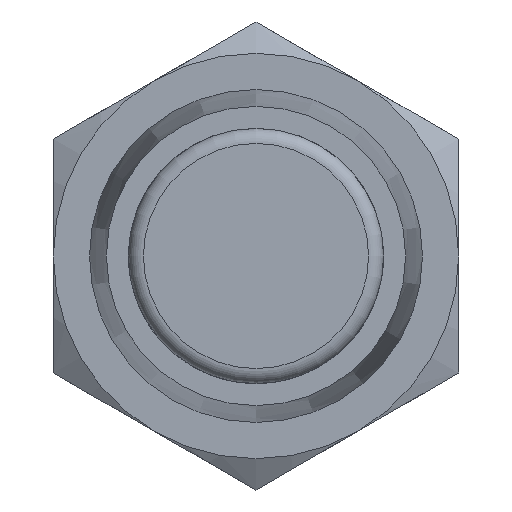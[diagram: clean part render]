
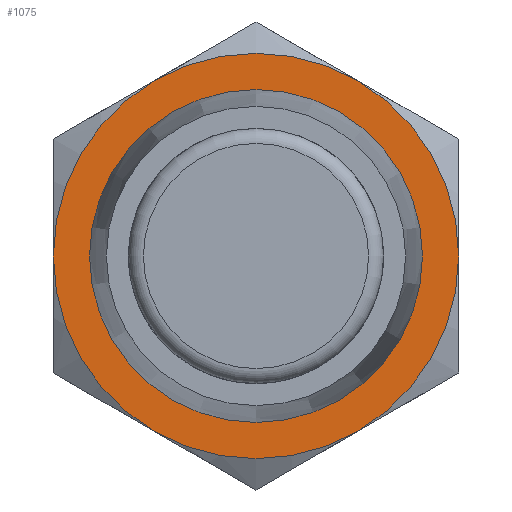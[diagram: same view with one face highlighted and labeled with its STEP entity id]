
A CAD part, left-side view. The second image highlights one B-rep face of the part: STEP entity #1075.
In plain terms, the highlighted planar face has unit normal (-1, 0, 0).
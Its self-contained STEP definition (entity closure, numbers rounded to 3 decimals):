
#994=CIRCLE('',#2697,13.5);
#995=CIRCLE('',#2701,13.5);
#996=CIRCLE('',#2705,13.5);
#997=CIRCLE('',#2709,13.5);
#998=CIRCLE('',#2713,13.5);
#999=CIRCLE('',#2719,13.5);
#1000=CIRCLE('',#2720,13.5);
#1001=CIRCLE('',#2722,11.092);
#1075=ADVANCED_FACE('',(#1217,#1218),#1167,.T.);
#1167=PLANE('',#2723);
#1217=FACE_BOUND('',#1296,.T.);
#1218=FACE_BOUND('',#1297,.T.);
#1296=EDGE_LOOP('',(#1604));
#1297=EDGE_LOOP('',(#1605,#1606,#1607,#1608,#1609,#1610,#1611));
#1604=ORIENTED_EDGE('',*,*,#2211,.T.);
#1605=ORIENTED_EDGE('',*,*,#2209,.T.);
#1606=ORIENTED_EDGE('',*,*,#2175,.T.);
#1607=ORIENTED_EDGE('',*,*,#2183,.T.);
#1608=ORIENTED_EDGE('',*,*,#2190,.T.);
#1609=ORIENTED_EDGE('',*,*,#2195,.T.);
#1610=ORIENTED_EDGE('',*,*,#2202,.T.);
#1611=ORIENTED_EDGE('',*,*,#2210,.T.);
#1970=VERTEX_POINT('',#3541);
#1972=VERTEX_POINT('',#3544);
#1976=VERTEX_POINT('',#3569);
#1979=VERTEX_POINT('',#3591);
#1982=VERTEX_POINT('',#3609);
#1985=VERTEX_POINT('',#3631);
#1988=VERTEX_POINT('',#3657);
#1989=VERTEX_POINT('',#3661);
#2175=EDGE_CURVE('',#1972,#1970,#994,.T.);
#2183=EDGE_CURVE('',#1970,#1976,#995,.T.);
#2190=EDGE_CURVE('',#1976,#1979,#996,.T.);
#2195=EDGE_CURVE('',#1979,#1982,#997,.T.);
#2202=EDGE_CURVE('',#1982,#1985,#998,.T.);
#2209=EDGE_CURVE('',#1988,#1972,#999,.T.);
#2210=EDGE_CURVE('',#1985,#1988,#1000,.T.);
#2211=EDGE_CURVE('',#1989,#1989,#1001,.T.);
#2697=AXIS2_PLACEMENT_3D('',#3543,#2981,#2982);
#2701=AXIS2_PLACEMENT_3D('',#3568,#2991,#2992);
#2705=AXIS2_PLACEMENT_3D('',#3592,#3000,#3001);
#2709=AXIS2_PLACEMENT_3D('',#3608,#3009,#3010);
#2713=AXIS2_PLACEMENT_3D('',#3632,#3018,#3019);
#2719=AXIS2_PLACEMENT_3D('',#3656,#3031,#3032);
#2720=AXIS2_PLACEMENT_3D('',#3658,#3033,#3034);
#2722=AXIS2_PLACEMENT_3D('',#3660,#3037,#3038);
#2723=AXIS2_PLACEMENT_3D('',#3662,#3039,#3040);
#2981=DIRECTION('',(-1.,0.,0.));
#2982=DIRECTION('',(0.,0.5,0.866));
#2991=DIRECTION('',(-1.,0.,0.));
#2992=DIRECTION('',(0.,1.,0.));
#3000=DIRECTION('',(-1.,0.,0.));
#3001=DIRECTION('',(0.,0.5,-0.866));
#3009=DIRECTION('',(-1.,0.,0.));
#3010=DIRECTION('',(0.,-0.5,-0.866));
#3018=DIRECTION('',(-1.,0.,0.));
#3019=DIRECTION('',(0.,-1.,0.));
#3031=DIRECTION('',(-1.,0.,0.));
#3032=DIRECTION('',(0.,0.,1.));
#3033=DIRECTION('',(-1.,0.,0.));
#3034=DIRECTION('',(0.,-0.5,0.866));
#3037=DIRECTION('',(1.,0.,0.));
#3038=DIRECTION('',(0.,0.,1.));
#3039=DIRECTION('',(-1.,0.,0.));
#3040=DIRECTION('',(0.,-1.,0.));
#3541=CARTESIAN_POINT('',(-10.,13.5,0.));
#3543=CARTESIAN_POINT('',(-10.,0.,0.));
#3544=CARTESIAN_POINT('',(-10.,6.75,11.691));
#3568=CARTESIAN_POINT('',(-10.,0.,0.));
#3569=CARTESIAN_POINT('',(-10.,6.75,-11.691));
#3591=CARTESIAN_POINT('',(-10.,-6.75,-11.691));
#3592=CARTESIAN_POINT('',(-10.,0.,0.));
#3608=CARTESIAN_POINT('',(-10.,0.,0.));
#3609=CARTESIAN_POINT('',(-10.,-13.5,0.));
#3631=CARTESIAN_POINT('',(-10.,-6.75,11.691));
#3632=CARTESIAN_POINT('',(-10.,0.,0.));
#3656=CARTESIAN_POINT('',(-10.,0.,0.));
#3657=CARTESIAN_POINT('',(-10.,0.,13.5));
#3658=CARTESIAN_POINT('',(-10.,0.,0.));
#3660=CARTESIAN_POINT('',(-10.,0.,0.));
#3661=CARTESIAN_POINT('',(-10.,0.,11.092));
#3662=CARTESIAN_POINT('',(-10.,14.95,-17.247));
